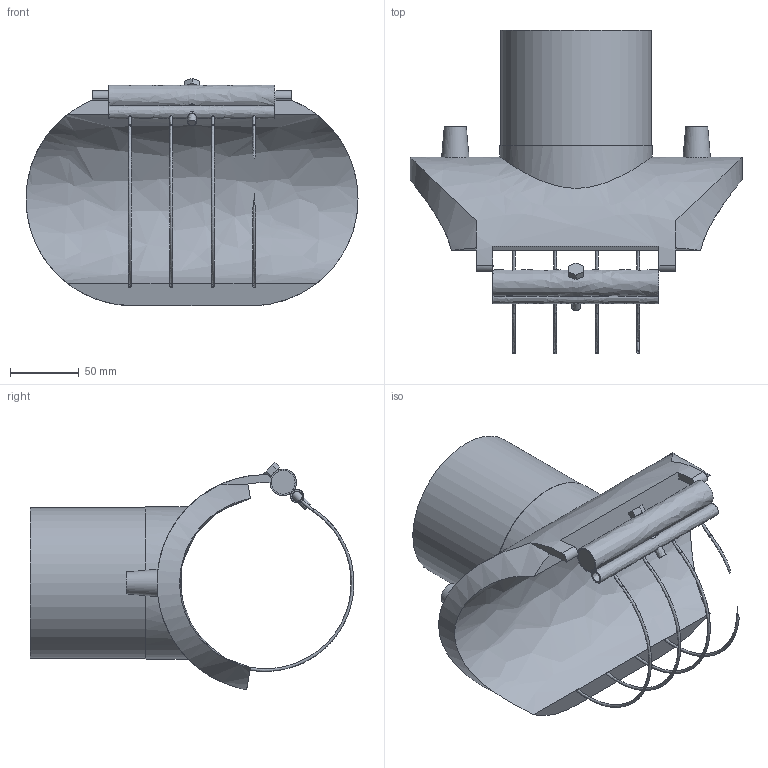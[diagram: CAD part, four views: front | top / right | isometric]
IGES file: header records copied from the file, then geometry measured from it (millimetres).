
Global section: file name: 4958X4125110T; native system: Autodesk Inventor 2021; preprocessor: unknown; author: KIM; date: 20250507.121503; units: millimetre
Bounding box: 242 x 236 x 165.73 mm (x, y, z)
Volume: 1046602.3 mm3; surface area: 192911.6 mm2
Topology: 1 solids, 1 shells, 62 faces, 187 edges, 126 vertices
Faces by surface type: bspline 62
